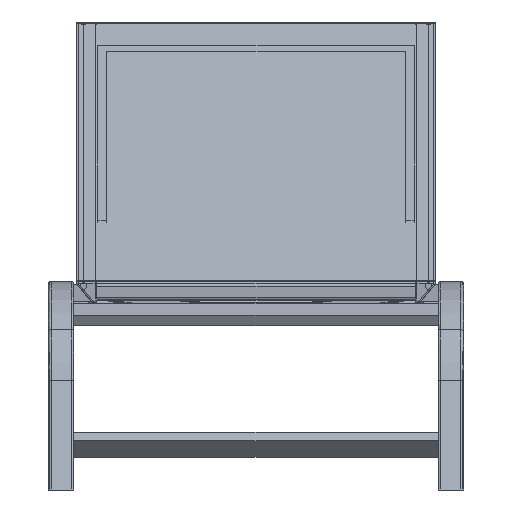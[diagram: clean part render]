
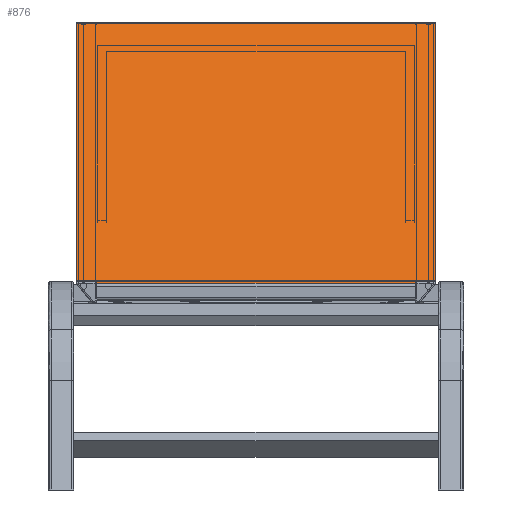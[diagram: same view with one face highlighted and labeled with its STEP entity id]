
A CAD part, front view. The second image highlights one B-rep face of the part: STEP entity #876.
In plain terms, the highlighted planar face has unit normal (0, -0.643, 0.766).
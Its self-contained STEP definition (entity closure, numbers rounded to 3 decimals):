
#876=ADVANCED_FACE('',(#1591),#11816,.T.);
#1591=FACE_OUTER_BOUND('',#2311,.T.);
#2311=EDGE_LOOP('',(#3301,#3302,#3303,#3304));
#3301=ORIENTED_EDGE('',*,*,#6699,.T.);
#3302=ORIENTED_EDGE('',*,*,#6703,.T.);
#3303=ORIENTED_EDGE('',*,*,#6706,.T.);
#3304=ORIENTED_EDGE('',*,*,#6708,.T.);
#6699=EDGE_CURVE('',#10745,#10744,#8424,.T.);
#6703=EDGE_CURVE('',#10744,#10747,#8428,.T.);
#6706=EDGE_CURVE('',#10747,#10749,#8431,.T.);
#6708=EDGE_CURVE('',#10749,#10745,#8433,.T.);
#8424=B_SPLINE_CURVE_WITH_KNOTS('',1,(#16245,#16246),.UNSPECIFIED.,.F.,
 .F.,(2,2),(-601.448,0.),.UNSPECIFIED.);
#8428=B_SPLINE_CURVE_WITH_KNOTS('',1,(#16253,#16254),.UNSPECIFIED.,.F.,
 .F.,(2,2),(-692.,0.),.UNSPECIFIED.);
#8431=B_SPLINE_CURVE_WITH_KNOTS('',1,(#16259,#16260),.UNSPECIFIED.,.F.,
 .F.,(2,2),(-601.448,0.),.UNSPECIFIED.);
#8433=B_SPLINE_CURVE_WITH_KNOTS('',1,(#16263,#16264),.UNSPECIFIED.,.F.,
 .F.,(2,2),(-692.,0.),.UNSPECIFIED.);
#10744=VERTEX_POINT('',#16235);
#10745=VERTEX_POINT('',#16236);
#10747=VERTEX_POINT('',#16238);
#10749=VERTEX_POINT('',#16240);
#11816=PLANE('',#12315);
#12315=AXIS2_PLACEMENT_3D('',#16231,#13546,$);
#13546=DIRECTION('',(0.,-0.643,0.766));
#16231=CARTESIAN_POINT('',(-346.052,418.353,291.256));
#16235=CARTESIAN_POINT('',(315.541,471.363,335.737));
#16236=CARTESIAN_POINT('',(-285.908,471.363,335.737));
#16238=CARTESIAN_POINT('',(315.541,1001.466,780.546));
#16240=CARTESIAN_POINT('',(-285.908,1001.466,780.546));
#16245=CARTESIAN_POINT('',(-285.908,471.363,335.737));
#16246=CARTESIAN_POINT('',(315.541,471.363,335.737));
#16253=CARTESIAN_POINT('',(315.541,471.363,335.737));
#16254=CARTESIAN_POINT('',(315.541,1001.466,780.546));
#16259=CARTESIAN_POINT('',(315.541,1001.466,780.546));
#16260=CARTESIAN_POINT('',(-285.908,1001.466,780.546));
#16263=CARTESIAN_POINT('',(-285.908,1001.466,780.546));
#16264=CARTESIAN_POINT('',(-285.908,471.363,335.737));
